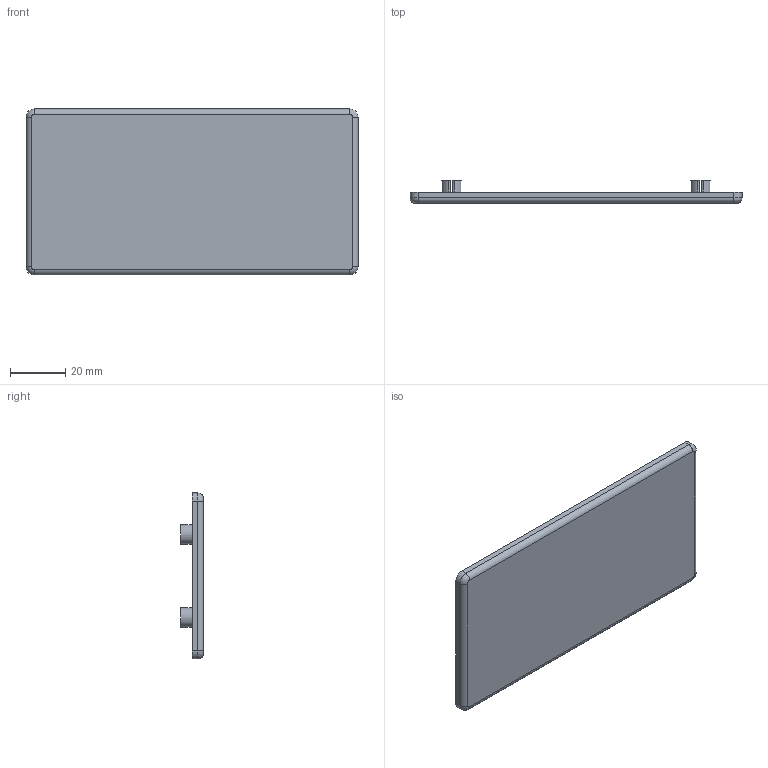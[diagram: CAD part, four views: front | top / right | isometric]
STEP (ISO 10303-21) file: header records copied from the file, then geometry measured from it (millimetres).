
FILE_DESCRIPTION (( 'STEP AP214' ), '1' );
FILE_NAME ('4081.STEP', '2019-02-13T06:00:52', ( '' ), ( '' ), 'SwSTEP 2.0', 'SolidWorks 2014', '' );
FILE_SCHEMA (( 'AUTOMOTIVE_DESIGN' ));
Length unit declared in the file: millimetre
Products named in the file (2): 4081
Bounding box: 120 x 8.2 x 60 mm (x, y, z)
Volume: 9496.8 mm3; surface area: 17594.5 mm2
Topology: 1 solids, 1 shells, 107 faces, 280 edges, 184 vertices
Faces by surface type: cylinder 68, plane 35, torus 4
Entity records: 3399 total; most frequent: DIRECTION 638, CARTESIAN_POINT 573, ORIENTED_EDGE 560, EDGE_CURVE 280, AXIS2_PLACEMENT_3D 249, VERTEX_POINT 184, LINE 140, VECTOR 140
